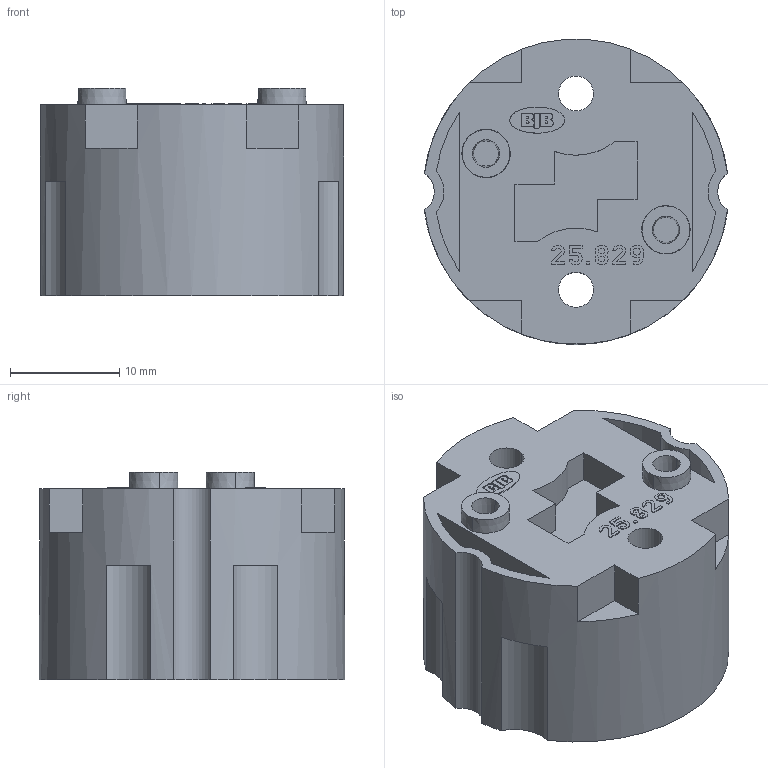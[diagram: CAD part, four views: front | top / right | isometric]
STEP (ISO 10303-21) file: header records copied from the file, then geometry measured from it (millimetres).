
FILE_DESCRIPTION(('Surface Model. B-Spline boundary curves.'),'1');
FILE_NAME('F:\ci-bearbeitung\00UYE03Z01.stp','2002-05-29 T',(' '),(' '),'STEP Interface v190.0 by CORETECH International','TRANS-3D v190.0 by CORETECH International',' ');
FILE_SCHEMA(('CONFIG_CONTROL_DESIGN'));
Length unit declared in the file: millimetre
Products named in the file (1): 00UYE03Z01
Bounding box: 27.8 x 28 x 19 mm (x, y, z)
Volume: 6675.7 mm3; surface area: 4255.3 mm2
Topology: 1 solids, 1 shells, 325 faces, 888 edges, 592 vertices
Faces by surface type: plane 260, cylinder 48, cone 10, bspline 7
Entity records: 10462 total; most frequent: CARTESIAN_POINT 2111, ORIENTED_EDGE 1776, DIRECTION 1638, EDGE_CURVE 888, VECTOR 736, LINE 736, VERTEX_POINT 592, AXIS2_PLACEMENT_3D 451
